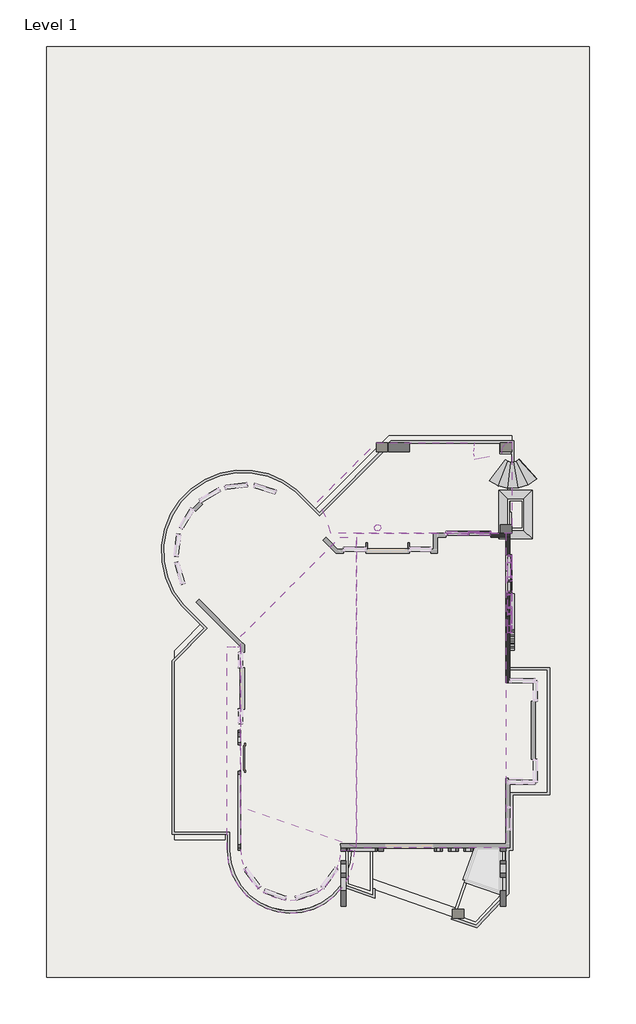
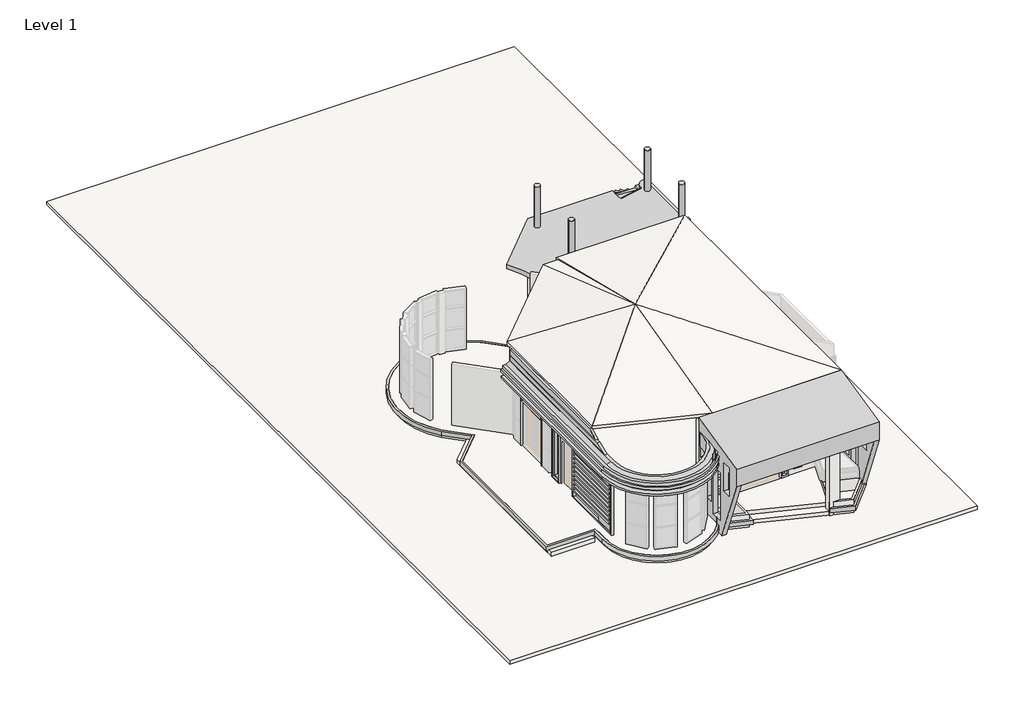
# One storey, part 4 of 4: 47 members, 12 proxies, 9 plates, 9 slabs, 4 walls, 1 stair flight.
"""IFC4 building model written with IfcOpenShell, lengths in millimetres."""

from ifc_helpers import new_model, si_unit, point, frame, frame_2d, origin, origin_with_axes, place, context, project, spatial, polyline, circle_curve, trimmed, segment, composite_curve, outline, extrude, faceted_brep, transform, mapped, element, save
from components import generic_models_1_generic_models_1_bd69fa78, generic_models_10_generic_models_10_8d27cac5, generic_models_11_generic_models_11_a65f2bc0, generic_models_12_generic_models_12_6ada49b7, generic_models_13_generic_models_13_cb0aad71, generic_models_3_generic_models_3_a1db2418, generic_models_4_generic_models_4_7a945247, generic_models_5_generic_models_5_67fbaff2, generic_models_6_generic_models_6_a9f09b6d, generic_models_7_generic_models_7_4984e2a2, generic_models_8_generic_models_8_17cfe582, generic_models_9_generic_models_2_f5175b4a, rectangular_mullion_50_x_150mm_eeb88b28, rectangular_mullion_50_x_150mm_bbc1c4ea, rectangular_mullion_50_x_150mm_3251d295, rectangular_mullion_50_x_150mm_03f9fa20, rectangular_mullion_50_x_150mm_f816ec39, rectangular_mullion_50_x_150mm_80d9c774, rectangular_mullion_50_x_150mm_6ac627af, rectangular_mullion_50_x_150mm_b03f34d7, rectangular_mullion_50_x_150mm_89be94bf, rectangular_mullion_50_x_150mm_c727c09e, rectangular_mullion_50_x_150mm_3d6894b0, rectangular_mullion_50_x_150mm_f98cb22d, rectangular_mullion_50_x_150mm_fdea0e76, rectangular_mullion_50_x_150mm_feba3820, rectangular_mullion_50_x_150mm_bae6ea92, rectangular_mullion_50_x_150mm_3441b6ce, rectangular_mullion_50_x_150mm_f1fdaf0a, rectangular_mullion_50_x_150mm_1e34799e, rectangular_mullion_50_x_150mm_2bcf8449, rectangular_mullion_50_x_150mm_fa7ecc48, rectangular_mullion_50_x_150mm_aa3029b1, rectangular_mullion_50_x_150mm_ba6a34b9, rectangular_mullion_50_x_150mm_f9d87fdc, rectangular_mullion_50_x_150mm_e1e52ecf, rectangular_mullion_50_x_150mm_8d3b0e21, rectangular_mullion_50_x_150mm_21ce460e, rectangular_mullion_50_x_150mm_1504598e, rectangular_mullion_50_x_150mm_ba1f1c32, rectangular_mullion_50_x_150mm_53edf6cf, rectangular_mullion_50_x_150mm_c4a62785, rectangular_mullion_50_x_150mm_ecfa3ac2, rectangular_mullion_50_x_150mm_dfeac2ca, rectangular_mullion_50_x_150mm_e82de0b1, rectangular_mullion_50_x_150mm_13a70143, system_panel_glazed_597167cc, system_panel_glazed_92c4ef80, system_panel_glazed_fcf763ac, system_panel_glazed_2d952c79, system_panel_glazed_96eedeeb, system_panel_glazed_a6878983, system_panel_glazed_1dd5f400, system_panel_glazed_0088ee4b, system_panel_glazed_d0d156c8, stair_flight_50_mm_tread_13_mm_riser_f81ebb1b

model = new_model("IFC4")

# Units and contexts
model_context = context("Model", 3, world=origin())
ifc_project = project(units=[si_unit("LENGTHUNIT", "METRE", prefix="MILLI")], contexts=[model_context])

# Site, building, storey
site = spatial("IfcSite", under=ifc_project)
building = spatial("IfcBuilding", under=site)
storey = spatial("IfcBuildingStorey", under=building, Name="Level 1", Elevation=0.0)

# Proxies
placement = place(None, origin())
generic_models_1_generic_models_1_shape = generic_models_1_generic_models_1_bd69fa78(model_context)
element("IfcBuildingElementProxy", 1, Name="Generic Models 1 : Generic Models 1", ObjectType="Generic Models 1 : Generic Models 1", at=placement, inside=storey, context=model_context, shape_type="MappedRepresentation", body=[
    mapped(generic_models_1_generic_models_1_shape, transform((0.0, -688.2356812, 0.0), x_axis=(1.0, 0.0, 0.0), y_axis=(0.0, 1.0, 0.0), z_axis=(0.0, 0.0, 1.0))),
])
generic_models_10_generic_models_10_shape = generic_models_10_generic_models_10_8d27cac5(model_context)
element("IfcBuildingElementProxy", 2, Name="Generic Models 10 : Generic Models 10", ObjectType="Generic Models 10 : Generic Models 10", at=placement, inside=storey, context=model_context, shape_type="MappedRepresentation", body=[
    mapped(generic_models_10_generic_models_10_shape, transform((0.0, 0.0, 0.0), x_axis=(1.0, 0.0, 0.0), y_axis=(0.0, 1.0, 0.0), z_axis=(0.0, 0.0, 1.0))),
])
generic_models_11_generic_models_11_shape = generic_models_11_generic_models_11_a65f2bc0(model_context)
element("IfcBuildingElementProxy", 3, Name="Generic Models 11 : Generic Models 11", ObjectType="Generic Models 11 : Generic Models 11", at=placement, inside=storey, context=model_context, shape_type="MappedRepresentation", body=[
    mapped(generic_models_11_generic_models_11_shape, transform((0.0, 0.0, 0.0), x_axis=(1.0, 0.0, 0.0), y_axis=(0.0, 1.0, 0.0), z_axis=(0.0, 0.0, 1.0))),
])
generic_models_12_generic_models_12_shape = generic_models_12_generic_models_12_6ada49b7(model_context)
element("IfcBuildingElementProxy", 4, Name="Generic Models 12 : Generic Models 12", ObjectType="Generic Models 12 : Generic Models 12", at=placement, inside=storey, context=model_context, shape_type="MappedRepresentation", body=[
    mapped(generic_models_12_generic_models_12_shape, transform((0.0, 0.0, 0.0), x_axis=(1.0, 0.0, 0.0), y_axis=(0.0, 1.0, 0.0), z_axis=(0.0, 0.0, 1.0))),
])
generic_models_13_generic_models_13_shape = generic_models_13_generic_models_13_cb0aad71(model_context)
element("IfcBuildingElementProxy", 5, Name="Generic Models 13 : Generic Models 13", ObjectType="Generic Models 13 : Generic Models 13", at=placement, inside=storey, context=model_context, shape_type="MappedRepresentation", body=[
    mapped(generic_models_13_generic_models_13_shape, transform((0.0, 0.0, 0.0), x_axis=(1.0, 0.0, 0.0), y_axis=(0.0, 1.0, 0.0), z_axis=(0.0, 0.0, 1.0))),
])
generic_models_3_generic_models_3_shape = generic_models_3_generic_models_3_a1db2418(model_context)
element("IfcBuildingElementProxy", 6, Name="Generic Models 3 : Generic Models 3", ObjectType="Generic Models 3 : Generic Models 3", at=placement, inside=storey, context=model_context, shape_type="MappedRepresentation", body=[
    mapped(generic_models_3_generic_models_3_shape, transform((0.0, 0.0, 0.0), x_axis=(1.0, 0.0, 0.0), y_axis=(0.0, 1.0, 0.0), z_axis=(0.0, 0.0, 1.0))),
])
generic_models_4_generic_models_4_shape = generic_models_4_generic_models_4_7a945247(model_context)
element("IfcBuildingElementProxy", 7, Name="Generic Models 4 : Generic Models 4", ObjectType="Generic Models 4 : Generic Models 4", at=placement, inside=storey, context=model_context, shape_type="MappedRepresentation", body=[
    mapped(generic_models_4_generic_models_4_shape, transform((0.0, 0.0, 0.0), x_axis=(1.0, 0.0, 0.0), y_axis=(0.0, 1.0, 0.0), z_axis=(0.0, 0.0, 1.0))),
])
generic_models_5_generic_models_5_shape = generic_models_5_generic_models_5_67fbaff2(model_context)
element("IfcBuildingElementProxy", 8, Name="Generic Models 5 : Generic Models 5", ObjectType="Generic Models 5 : Generic Models 5", at=placement, inside=storey, context=model_context, shape_type="MappedRepresentation", body=[
    mapped(generic_models_5_generic_models_5_shape, transform((0.0, 0.0, 0.0), x_axis=(1.0, 0.0, 0.0), y_axis=(0.0, 1.0, 0.0), z_axis=(0.0, 0.0, 1.0))),
])
generic_models_6_generic_models_6_shape = generic_models_6_generic_models_6_a9f09b6d(model_context)
element("IfcBuildingElementProxy", 9, Name="Generic Models 6 : Generic Models 6", ObjectType="Generic Models 6 : Generic Models 6", at=placement, inside=storey, context=model_context, shape_type="MappedRepresentation", body=[
    mapped(generic_models_6_generic_models_6_shape, transform((0.0, 0.0, 0.0), x_axis=(1.0, 0.0, 0.0), y_axis=(0.0, 1.0, 0.0), z_axis=(0.0, 0.0, 1.0))),
])
generic_models_7_generic_models_7_shape = generic_models_7_generic_models_7_4984e2a2(model_context)
element("IfcBuildingElementProxy", 10, Name="Generic Models 7 : Generic Models 7", ObjectType="Generic Models 7 : Generic Models 7", at=placement, inside=storey, context=model_context, shape_type="MappedRepresentation", body=[
    mapped(generic_models_7_generic_models_7_shape, transform((0.0, 0.0, 0.0), x_axis=(1.0, 0.0, 0.0), y_axis=(0.0, 1.0, 0.0), z_axis=(0.0, 0.0, 1.0))),
])
generic_models_8_generic_models_8_shape = generic_models_8_generic_models_8_17cfe582(model_context)
element("IfcBuildingElementProxy", 11, Name="Generic Models 8 : Generic Models 8", ObjectType="Generic Models 8 : Generic Models 8", at=placement, inside=storey, context=model_context, shape_type="MappedRepresentation", body=[
    mapped(generic_models_8_generic_models_8_shape, transform((0.0, 0.0, 0.0), x_axis=(1.0, 0.0, 0.0), y_axis=(0.0, 1.0, 0.0), z_axis=(0.0, 0.0, 1.0))),
])
generic_models_9_generic_models_2_shape = generic_models_9_generic_models_2_f5175b4a(model_context)
element("IfcBuildingElementProxy", 12, Name="Generic Models 9 : Generic Models 2", ObjectType="Generic Models 9 : Generic Models 2", at=placement, inside=storey, context=model_context, shape_type="MappedRepresentation", body=[
    mapped(generic_models_9_generic_models_2_shape, transform((0.0, 0.0, 0.0), x_axis=(1.0, 0.0, 0.0), y_axis=(0.0, 1.0, 0.0), z_axis=(0.0, 0.0, 1.0))),
])

# Members
rectangular_mullion_50_x_150mm_shape = rectangular_mullion_50_x_150mm_eeb88b28(model_context)
element("IfcMember", 13, ObjectType="Rectangular Mullion : 50 x 150mm", at=placement, inside=storey, context=model_context, shape_type="MappedRepresentation", body=[
    mapped(rectangular_mullion_50_x_150mm_shape, transform((40294.1830624, 28793.7215248, 0.0), x_axis=(1.0, 0.0, 0.0), y_axis=(0.0, -1.0, 0.0), z_axis=(0.0, 0.0, -1.0))),
])
element("IfcMember", 14, ObjectType="Rectangular Mullion : 50 x 150mm", at=placement, inside=storey, context=model_context, shape_type="MappedRepresentation", body=[
    mapped(rectangular_mullion_50_x_150mm_shape, transform((40294.1830624, 28793.7215248, 1000.0), x_axis=(1.0, 0.0, 0.0), y_axis=(0.0, -1.0, 0.0), z_axis=(0.0, 0.0, -1.0))),
])
element("IfcMember", 15, ObjectType="Rectangular Mullion : 50 x 150mm", at=placement, inside=storey, context=model_context, shape_type="MappedRepresentation", body=[
    mapped(rectangular_mullion_50_x_150mm_shape, transform((40294.1830624, 28793.7215248, 2000.0), x_axis=(1.0, 0.0, 0.0), y_axis=(0.0, -1.0, 0.0), z_axis=(0.0, 0.0, -1.0))),
])
element("IfcMember", 16, ObjectType="Rectangular Mullion : 50 x 150mm", at=placement, inside=storey, context=model_context, shape_type="MappedRepresentation", body=[
    mapped(rectangular_mullion_50_x_150mm_shape, transform((41014.1830624, 25013.2541901, 2000.0), x_axis=(0.0, -1.0, 0.0), y_axis=(-1.0, 0.0, 0.0), z_axis=(0.0, 0.0, -1.0))),
])
element("IfcMember", 17, ObjectType="Rectangular Mullion : 50 x 150mm", at=placement, inside=storey, context=model_context, shape_type="MappedRepresentation", body=[
    mapped(rectangular_mullion_50_x_150mm_shape, transform((41014.1830624, 27983.7215248, 2000.0), x_axis=(0.0, 1.0, 0.0), y_axis=(-1.0, 0.0, 0.0), z_axis=(0.0, 0.0, 1.0))),
])
rectangular_mullion_50_x_150mm_2_shape = rectangular_mullion_50_x_150mm_bbc1c4ea(model_context)
element("IfcMember", 18, ObjectType="Rectangular Mullion : 50 x 150mm", at=placement, inside=storey, context=model_context, shape_type="MappedRepresentation", body=[
    mapped(rectangular_mullion_50_x_150mm_2_shape, transform((39439.3537527, 28793.7215248, 0.0), x_axis=(1.0, 0.0, 0.0), y_axis=(0.0, -1.0, 0.0), z_axis=(0.0, 0.0, -1.0))),
])
element("IfcMember", 19, ObjectType="Rectangular Mullion : 50 x 150mm", at=placement, inside=storey, context=model_context, shape_type="MappedRepresentation", body=[
    mapped(rectangular_mullion_50_x_150mm_2_shape, transform((39439.3537527, 28793.7215248, 1000.0), x_axis=(1.0, 0.0, 0.0), y_axis=(0.0, -1.0, 0.0), z_axis=(0.0, 0.0, -1.0))),
])
element("IfcMember", 20, ObjectType="Rectangular Mullion : 50 x 150mm", at=placement, inside=storey, context=model_context, shape_type="MappedRepresentation", body=[
    mapped(rectangular_mullion_50_x_150mm_2_shape, transform((39439.3537527, 28793.7215248, 2000.0), x_axis=(1.0, 0.0, 0.0), y_axis=(0.0, -1.0, 0.0), z_axis=(0.0, 0.0, -1.0))),
])
rectangular_mullion_50_x_150mm_3_shape = rectangular_mullion_50_x_150mm_3251d295(model_context)
element("IfcMember", 21, ObjectType="Rectangular Mullion : 50 x 150mm", at=placement, inside=storey, context=model_context, shape_type="MappedRepresentation", body=[
    mapped(rectangular_mullion_50_x_150mm_3_shape, transform((39439.3537527, 28793.7215248, 3000.0), x_axis=(1.0, 0.0, 0.0), y_axis=(0.0, -1.0, 0.0), z_axis=(0.0, 0.0, -1.0))),
])
rectangular_mullion_50_x_150mm_4_shape = rectangular_mullion_50_x_150mm_03f9fa20(model_context)
element("IfcMember", 22, ObjectType="Rectangular Mullion : 50 x 150mm", at=placement, inside=storey, context=model_context, shape_type="MappedRepresentation", body=[
    mapped(rectangular_mullion_50_x_150mm_4_shape, transform((40294.1830624, 28793.7215248, 3000.0), x_axis=(1.0, 0.0, 0.0), y_axis=(0.0, -1.0, 0.0), z_axis=(0.0, 0.0, -1.0))),
])
rectangular_mullion_50_x_150mm_5_shape = rectangular_mullion_50_x_150mm_f816ec39(model_context)
element("IfcMember", 23, ObjectType="Rectangular Mullion : 50 x 150mm", at=placement, inside=storey, context=model_context, shape_type="MappedRepresentation", body=[
    mapped(rectangular_mullion_50_x_150mm_5_shape, transform((41014.1830624, 27676.0350867, 2766.2241464), x_axis=(0.0, 0.0, 1.0), y_axis=(-1.0, 0.0, 0.0), z_axis=(0.0, -1.0, 0.0))),
])
rectangular_mullion_50_x_150mm_6_shape = rectangular_mullion_50_x_150mm_80d9c774(model_context)
element("IfcMember", 24, ObjectType="Rectangular Mullion : 50 x 150mm", at=placement, inside=storey, context=model_context, shape_type="MappedRepresentation", body=[
    mapped(rectangular_mullion_50_x_150mm_6_shape, transform((41014.1830624, 25319.4000247, 1360.0), x_axis=(0.0, 0.0, -1.0), y_axis=(-1.0, 0.0, 0.0), z_axis=(0.0, 1.0, 0.0))),
])
rectangular_mullion_50_x_150mm_7_shape = rectangular_mullion_50_x_150mm_6ac627af(model_context)
element("IfcMember", 25, ObjectType="Rectangular Mullion : 50 x 150mm", at=placement, inside=storey, context=model_context, shape_type="MappedRepresentation", body=[
    mapped(rectangular_mullion_50_x_150mm_7_shape, transform((41014.1830624, 27983.7215248, 2766.2241464), x_axis=(0.0, 1.0, 0.0), y_axis=(-1.0, 0.0, 0.0), z_axis=(0.0, 0.0, 1.0))),
])
rectangular_mullion_50_x_150mm_8_shape = rectangular_mullion_50_x_150mm_b03f34d7(model_context)
element("IfcMember", 26, ObjectType="Rectangular Mullion : 50 x 150mm", at=placement, inside=storey, context=model_context, shape_type="MappedRepresentation", body=[
    mapped(rectangular_mullion_50_x_150mm_8_shape, transform((41014.1830624, 27983.7215248, 1000.0), x_axis=(0.0, 1.0, 0.0), y_axis=(-1.0, 0.0, 0.0), z_axis=(0.0, 0.0, 1.0))),
])
rectangular_mullion_50_x_150mm_9_shape = rectangular_mullion_50_x_150mm_89be94bf(model_context)
element("IfcMember", 27, ObjectType="Rectangular Mullion : 50 x 150mm", at=placement, inside=storey, context=model_context, shape_type="MappedRepresentation", body=[
    mapped(rectangular_mullion_50_x_150mm_9_shape, transform((41014.1830624, 26990.3881914, 960.0), x_axis=(0.0, -1.0, 0.0), y_axis=(-1.0, 0.0, 0.0), z_axis=(0.0, 0.0, -1.0))),
])
rectangular_mullion_50_x_150mm_10_shape = rectangular_mullion_50_x_150mm_c727c09e(model_context)
element("IfcMember", 28, ObjectType="Rectangular Mullion : 50 x 150mm", at=placement, inside=storey, context=model_context, shape_type="MappedRepresentation", body=[
    mapped(rectangular_mullion_50_x_150mm_10_shape, transform((41014.1830624, 25997.0548582, 3000.0), x_axis=(0.0, -1.0, 0.0), y_axis=(-1.0, 0.0, 0.0), z_axis=(0.0, 0.0, -1.0))),
])
rectangular_mullion_50_x_150mm_11_shape = rectangular_mullion_50_x_150mm_3d6894b0(model_context)
element("IfcMember", 29, ObjectType="Rectangular Mullion : 50 x 150mm", at=placement, inside=storey, context=model_context, shape_type="MappedRepresentation", body=[
    mapped(rectangular_mullion_50_x_150mm_11_shape, transform((41014.1830624, 25013.2541901, 1360.0), x_axis=(0.0, -1.0, 0.0), y_axis=(-1.0, 0.0, 0.0), z_axis=(0.0, 0.0, -1.0))),
])
rectangular_mullion_50_x_150mm_12_shape = rectangular_mullion_50_x_150mm_f98cb22d(model_context)
element("IfcMember", 30, ObjectType="Rectangular Mullion : 50 x 150mm", at=placement, inside=storey, context=model_context, shape_type="MappedRepresentation", body=[
    mapped(rectangular_mullion_50_x_150mm_12_shape, transform((41014.1830624, 25013.2541901, 3000.0), x_axis=(0.0, -1.0, 0.0), y_axis=(-1.0, 0.0, 0.0), z_axis=(0.0, 0.0, -1.0))),
])
rectangular_mullion_50_x_150mm_13_shape = rectangular_mullion_50_x_150mm_fdea0e76(model_context)
element("IfcMember", 31, ObjectType="Rectangular Mullion : 50 x 150mm", at=placement, inside=storey, context=model_context, shape_type="MappedRepresentation", body=[
    mapped(rectangular_mullion_50_x_150mm_13_shape, transform((41014.1830624, 27015.3881914, 1000.0), x_axis=(0.0, 0.0, 1.0), y_axis=(-1.0, 0.0, 0.0), z_axis=(0.0, -1.0, 0.0))),
])
rectangular_mullion_50_x_150mm_14_shape = rectangular_mullion_50_x_150mm_feba3820(model_context)
element("IfcMember", 32, ObjectType="Rectangular Mullion : 50 x 150mm", at=placement, inside=storey, context=model_context, shape_type="MappedRepresentation", body=[
    mapped(rectangular_mullion_50_x_150mm_14_shape, transform((41014.1830624, 27119.3406583, 2000.0), x_axis=(0.0, 0.0, 1.0), y_axis=(-1.0, 0.0, 0.0), z_axis=(0.0, -1.0, 0.0))),
])
rectangular_mullion_50_x_150mm_15_shape = rectangular_mullion_50_x_150mm_bae6ea92(model_context)
element("IfcMember", 33, ObjectType="Rectangular Mullion : 50 x 150mm", at=placement, inside=storey, context=model_context, shape_type="MappedRepresentation", body=[
    mapped(rectangular_mullion_50_x_150mm_15_shape, transform((41014.1830624, 25063.2541901, 3166.2241464), x_axis=(0.0, 0.0, 1.0), y_axis=(-1.0, 0.0, 0.0), z_axis=(0.0, -1.0, 0.0))),
])
rectangular_mullion_50_x_150mm_16_shape = rectangular_mullion_50_x_150mm_3441b6ce(model_context)
element("IfcMember", 34, ObjectType="Rectangular Mullion : 50 x 150mm", at=placement, inside=storey, context=model_context, shape_type="MappedRepresentation", body=[
    mapped(rectangular_mullion_50_x_150mm_16_shape, transform((41014.1830624, 27933.7215248, 960.0), x_axis=(0.0, 0.0, -1.0), y_axis=(-1.0, 0.0, 0.0), z_axis=(0.0, 1.0, 0.0))),
])
rectangular_mullion_50_x_150mm_17_shape = rectangular_mullion_50_x_150mm_f1fdaf0a(model_context)
element("IfcMember", 35, ObjectType="Rectangular Mullion : 50 x 150mm", at=placement, inside=storey, context=model_context, shape_type="MappedRepresentation", body=[
    mapped(rectangular_mullion_50_x_150mm_17_shape, transform((41014.1830624, 26363.7364292, 960.0), x_axis=(0.0, -0.8090169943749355, 0.5877852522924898), y_axis=(-1.0, 0.0, 0.0), z_axis=(0.0, -0.5877852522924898, -0.8090169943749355))),
])
rectangular_mullion_50_x_150mm_18_shape = rectangular_mullion_50_x_150mm_1e34799e(model_context)
element("IfcMember", 36, ObjectType="Rectangular Mullion : 50 x 150mm", at=placement, inside=storey, context=model_context, shape_type="MappedRepresentation", body=[
    mapped(rectangular_mullion_50_x_150mm_18_shape, transform((41014.1830624, 26392.7981303, 1000.0), x_axis=(0.0, -0.8090169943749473, 0.5877852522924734), y_axis=(-1.0, 0.0, 0.0), z_axis=(0.0, -0.5877852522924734, -0.8090169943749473))),
])
rectangular_mullion_50_x_150mm_19_shape = rectangular_mullion_50_x_150mm_2bcf8449(model_context)
element("IfcMember", 37, ObjectType="Rectangular Mullion : 50 x 150mm", at=placement, inside=storey, context=model_context, shape_type="MappedRepresentation", body=[
    mapped(rectangular_mullion_50_x_150mm_19_shape, transform((41014.1830624, 27119.3406583, 2000.0), x_axis=(0.0, -0.8090169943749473, 0.5877852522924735), y_axis=(-1.0, 0.0, 0.0), z_axis=(0.0, -0.5877852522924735, -0.8090169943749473))),
])
rectangular_mullion_50_x_150mm_20_shape = rectangular_mullion_50_x_150mm_fa7ecc48(model_context)
element("IfcMember", 38, ObjectType="Rectangular Mullion : 50 x 150mm", at=placement, inside=storey, context=model_context, shape_type="MappedRepresentation", body=[
    mapped(rectangular_mullion_50_x_150mm_20_shape, transform((41014.1830624, 26631.6986822, 3166.2241464), x_axis=(0.0, 0.809016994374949, -0.587785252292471), y_axis=(-1.0, 0.0, 0.0), z_axis=(0.0, 0.587785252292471, 0.809016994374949))),
])
rectangular_mullion_50_x_150mm_21_shape = rectangular_mullion_50_x_150mm_aa3029b1(model_context)
element("IfcMember", 39, ObjectType="Rectangular Mullion : 50 x 150mm", at=placement, inside=storey, context=model_context, shape_type="MappedRepresentation", body=[
    mapped(rectangular_mullion_50_x_150mm_21_shape, transform((41014.1830624, 25784.3872426, 2000.0), x_axis=(0.0, 0.8090169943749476, -0.587785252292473), y_axis=(-1.0, 0.0, 0.0), z_axis=(0.0, 0.5877852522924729, 0.8090169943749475))),
])
rectangular_mullion_50_x_150mm_22_shape = rectangular_mullion_50_x_150mm_ba6a34b9(model_context)
element("IfcMember", 40, ObjectType="Rectangular Mullion : 50 x 150mm", at=placement, inside=storey, context=model_context, shape_type="MappedRepresentation", body=[
    mapped(rectangular_mullion_50_x_150mm_22_shape, transform((41014.1830624, 26392.7981303, 1000.0), x_axis=(0.0, 0.0, 1.0), y_axis=(-1.0, 0.0, 0.0), z_axis=(0.0, -1.0, 0.0))),
])
rectangular_mullion_50_x_150mm_23_shape = rectangular_mullion_50_x_150mm_f9d87fdc(model_context)
element("IfcMember", 41, ObjectType="Rectangular Mullion : 50 x 150mm", at=placement, inside=storey, context=model_context, shape_type="MappedRepresentation", body=[
    mapped(rectangular_mullion_50_x_150mm_23_shape, transform((41014.1830624, 25063.2541901, 2000.0), x_axis=(0.0, 0.0, 1.0), y_axis=(-1.0, 0.0, 0.0), z_axis=(0.0, -1.0, 0.0))),
])
rectangular_mullion_50_x_150mm_24_shape = rectangular_mullion_50_x_150mm_e1e52ecf(model_context)
element("IfcMember", 42, ObjectType="Rectangular Mullion : 50 x 150mm", at=placement, inside=storey, context=model_context, shape_type="MappedRepresentation", body=[
    mapped(rectangular_mullion_50_x_150mm_24_shape, transform((41014.1830624, 26022.0548582, 3166.2241464), x_axis=(0.0, 0.0, 1.0), y_axis=(-1.0, 0.0, 0.0), z_axis=(0.0, -1.0, 0.0))),
])
rectangular_mullion_50_x_150mm_25_shape = rectangular_mullion_50_x_150mm_8d3b0e21(model_context)
element("IfcMember", 43, ObjectType="Rectangular Mullion : 50 x 150mm", at=placement, inside=storey, context=model_context, shape_type="MappedRepresentation", body=[
    mapped(rectangular_mullion_50_x_150mm_25_shape, transform((41014.1830624, 26965.3881914, 960.0), x_axis=(0.0, 0.0, -1.0), y_axis=(-1.0, 0.0, 0.0), z_axis=(0.0, 1.0, 0.0))),
])
rectangular_mullion_50_x_150mm_26_shape = rectangular_mullion_50_x_150mm_21ce460e(model_context)
element("IfcMember", 44, ObjectType="Rectangular Mullion : 50 x 150mm", at=placement, inside=storey, context=model_context, shape_type="MappedRepresentation", body=[
    mapped(rectangular_mullion_50_x_150mm_26_shape, transform((41014.1830624, 26990.3881914, 1822.5121558), x_axis=(0.0, -0.8090169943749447, 0.587785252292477), y_axis=(-1.0, 0.0, 0.0), z_axis=(0.0, -0.5877852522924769, -0.8090169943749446))),
])
rectangular_mullion_50_x_150mm_27_shape = rectangular_mullion_50_x_150mm_1504598e(model_context)
element("IfcMember", 45, ObjectType="Rectangular Mullion : 50 x 150mm", at=placement, inside=storey, context=model_context, shape_type="MappedRepresentation", body=[
    mapped(rectangular_mullion_50_x_150mm_27_shape, transform((41014.1830624, 25997.0548582, 2292.7118612), x_axis=(0.0, 0.8090169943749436, -0.5877852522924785), y_axis=(-1.0, 0.0, 0.0), z_axis=(0.0, 0.5877852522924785, 0.8090169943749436))),
])
rectangular_mullion_50_x_150mm_28_shape = rectangular_mullion_50_x_150mm_ba1f1c32(model_context)
element("IfcMember", 46, ObjectType="Rectangular Mullion : 50 x 150mm", at=placement, inside=storey, context=model_context, shape_type="MappedRepresentation", body=[
    mapped(rectangular_mullion_50_x_150mm_28_shape, transform((41014.1830624, 26510.9297706, 3000.0), x_axis=(0.0, 0.8090169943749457, -0.5877852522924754), y_axis=(-1.0, 0.0, 0.0), z_axis=(0.0, 0.5877852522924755, 0.8090169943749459))),
])
rectangular_mullion_50_x_150mm_29_shape = rectangular_mullion_50_x_150mm_53edf6cf(model_context)
element("IfcMember", 47, ObjectType="Rectangular Mullion : 50 x 150mm", at=placement, inside=storey, context=model_context, shape_type="MappedRepresentation", body=[
    mapped(rectangular_mullion_50_x_150mm_29_shape, transform((41014.1830624, 26022.0548582, 3000.0), x_axis=(0.0, 0.0, 1.0), y_axis=(-1.0, 0.0, 0.0), z_axis=(0.0, -1.0, 0.0))),
])
rectangular_mullion_50_x_150mm_30_shape = rectangular_mullion_50_x_150mm_c4a62785(model_context)
element("IfcMember", 48, ObjectType="Rectangular Mullion : 50 x 150mm", at=placement, inside=storey, context=model_context, shape_type="MappedRepresentation", body=[
    mapped(rectangular_mullion_50_x_150mm_30_shape, transform((41014.1830624, 25063.2541901, 3000.0), x_axis=(0.0, 0.0, 1.0), y_axis=(-1.0, 0.0, 0.0), z_axis=(0.0, -1.0, 0.0))),
])
rectangular_mullion_50_x_150mm_31_shape = rectangular_mullion_50_x_150mm_ecfa3ac2(model_context)
element("IfcMember", 49, ObjectType="Rectangular Mullion : 50 x 150mm", at=placement, inside=storey, context=model_context, shape_type="MappedRepresentation", body=[
    mapped(rectangular_mullion_50_x_150mm_31_shape, transform((41014.1830624, 25997.0548582, 2292.7118612), x_axis=(0.0, -1.0, 0.0), y_axis=(-1.0, 0.0, 0.0), z_axis=(0.0, 0.0, -1.0))),
])
rectangular_mullion_50_x_150mm_32_shape = rectangular_mullion_50_x_150mm_dfeac2ca(model_context)
element("IfcMember", 50, ObjectType="Rectangular Mullion : 50 x 150mm", at=placement, inside=storey, context=model_context, shape_type="MappedRepresentation", body=[
    mapped(rectangular_mullion_50_x_150mm_32_shape, transform((41014.1830624, 26990.3881914, 1000.0), x_axis=(0.0, -1.0, 0.0), y_axis=(-1.0, 0.0, 0.0), z_axis=(0.0, 0.0, -1.0))),
])
rectangular_mullion_50_x_150mm_33_shape = rectangular_mullion_50_x_150mm_e82de0b1(model_context)
element("IfcMember", 51, ObjectType="Rectangular Mullion : 50 x 150mm", at=placement, inside=storey, context=model_context, shape_type="MappedRepresentation", body=[
    mapped(rectangular_mullion_50_x_150mm_33_shape, transform((40244.1830624, 28793.7215248, 3200.0), x_axis=(0.0, 0.0, 1.0), y_axis=(0.0, -1.0, 0.0), z_axis=(1.0, 0.0, 0.0))),
])
element("IfcMember", 52, ObjectType="Rectangular Mullion : 50 x 150mm", at=placement, inside=storey, context=model_context, shape_type="MappedRepresentation", body=[
    mapped(rectangular_mullion_50_x_150mm_33_shape, transform((39414.3537527, 28793.7215248, 3200.0), x_axis=(0.0, 0.0, 1.0), y_axis=(0.0, -1.0, 0.0), z_axis=(1.0, 0.0, 0.0))),
])
element("IfcMember", 53, ObjectType="Rectangular Mullion : 50 x 150mm", at=placement, inside=storey, context=model_context, shape_type="MappedRepresentation", body=[
    mapped(rectangular_mullion_50_x_150mm_33_shape, transform((39464.3537527, 28793.7215248, 0.0), x_axis=(0.0, 0.0, -1.0), y_axis=(0.0, -1.0, 0.0), z_axis=(-1.0, 0.0, 0.0))),
])
rectangular_mullion_50_x_150mm_34_shape = rectangular_mullion_50_x_150mm_13a70143(model_context)
element("IfcMember", 54, ObjectType="Rectangular Mullion : 50 x 150mm", at=placement, inside=storey, context=model_context, shape_type="MappedRepresentation", body=[
    mapped(rectangular_mullion_50_x_150mm_34_shape, transform((39414.3537527, 28793.7215248, 1000.0), x_axis=(0.0, 0.0, 1.0), y_axis=(0.0, -1.0, 0.0), z_axis=(1.0, 0.0, 0.0))),
])
element("IfcMember", 55, ObjectType="Rectangular Mullion : 50 x 150mm", at=placement, inside=storey, context=model_context, shape_type="MappedRepresentation", body=[
    mapped(rectangular_mullion_50_x_150mm_34_shape, transform((40244.1830624, 28793.7215248, 1000.0), x_axis=(0.0, 0.0, 1.0), y_axis=(0.0, -1.0, 0.0), z_axis=(1.0, 0.0, 0.0))),
])
element("IfcMember", 56, ObjectType="Rectangular Mullion : 50 x 150mm", at=placement, inside=storey, context=model_context, shape_type="MappedRepresentation", body=[
    mapped(rectangular_mullion_50_x_150mm_34_shape, transform((39414.3537527, 28793.7215248, 2000.0), x_axis=(0.0, 0.0, 1.0), y_axis=(0.0, -1.0, 0.0), z_axis=(1.0, 0.0, 0.0))),
])
element("IfcMember", 57, ObjectType="Rectangular Mullion : 50 x 150mm", at=placement, inside=storey, context=model_context, shape_type="MappedRepresentation", body=[
    mapped(rectangular_mullion_50_x_150mm_34_shape, transform((40244.1830624, 28793.7215248, 2000.0), x_axis=(0.0, 0.0, 1.0), y_axis=(0.0, -1.0, 0.0), z_axis=(1.0, 0.0, 0.0))),
])
element("IfcMember", 58, ObjectType="Rectangular Mullion : 50 x 150mm", at=placement, inside=storey, context=model_context, shape_type="MappedRepresentation", body=[
    mapped(rectangular_mullion_50_x_150mm_34_shape, transform((39414.3537527, 28793.7215248, 3000.0), x_axis=(0.0, 0.0, 1.0), y_axis=(0.0, -1.0, 0.0), z_axis=(1.0, 0.0, 0.0))),
])
element("IfcMember", 59, ObjectType="Rectangular Mullion : 50 x 150mm", at=placement, inside=storey, context=model_context, shape_type="MappedRepresentation", body=[
    mapped(rectangular_mullion_50_x_150mm_34_shape, transform((40244.1830624, 28793.7215248, 3000.0), x_axis=(0.0, 0.0, 1.0), y_axis=(0.0, -1.0, 0.0), z_axis=(1.0, 0.0, 0.0))),
])

# Plates
system_panel_glazed_shape = system_panel_glazed_597167cc(model_context)
element("IfcPlate", 60, ObjectType="System Panel : Glazed", at=placement, inside=storey, context=model_context, shape_type="MappedRepresentation", body=[
    mapped(system_panel_glazed_shape, transform((41014.1830624, 27566.5145726, 2025.0), x_axis=(0.0, -1.0, 0.0), y_axis=(1.0, 0.0, 0.0), z_axis=(0.0, 0.0, 1.0))),
])
system_panel_glazed_2_shape = system_panel_glazed_92c4ef80(model_context)
element("IfcPlate", 61, ObjectType="System Panel : Glazed", at=placement, inside=storey, context=model_context, shape_type="MappedRepresentation", body=[
    mapped(system_panel_glazed_2_shape, transform((41014.1830624, 25383.8372353, 1410.0), x_axis=(0.0, -1.0, 0.0), y_axis=(1.0, 0.0, 0.0), z_axis=(0.0, 0.0, 1.0))),
])
system_panel_glazed_3_shape = system_panel_glazed_fcf763ac(model_context)
element("IfcPlate", 62, ObjectType="System Panel : Glazed", at=placement, inside=storey, context=model_context, shape_type="MappedRepresentation", body=[
    mapped(system_panel_glazed_3_shape, transform((41014.1830624, 27474.5548581, 1025.0), x_axis=(0.0, -1.0, 0.0), y_axis=(1.0, 0.0, 0.0), z_axis=(0.0, 0.0, 1.0))),
])
system_panel_glazed_4_shape = system_panel_glazed_2d952c79(model_context)
element("IfcPlate", 63, ObjectType="System Panel : Glazed", at=placement, inside=storey, context=model_context, shape_type="MappedRepresentation", body=[
    mapped(system_panel_glazed_4_shape, transform((41014.1830624, 26719.0766419, 1025.0), x_axis=(0.0, -1.0, 0.0), y_axis=(1.0, 0.0, 0.0), z_axis=(0.0, 0.0, 1.0))),
])
system_panel_glazed_5_shape = system_panel_glazed_96eedeeb(model_context)
element("IfcPlate", 64, ObjectType="System Panel : Glazed", at=placement, inside=storey, context=model_context, shape_type="MappedRepresentation", body=[
    mapped(system_panel_glazed_5_shape, transform((41014.1830624, 26226.5088334, 2412.18649), x_axis=(0.0, -1.0, 0.0), y_axis=(1.0, 0.0, 0.0), z_axis=(0.0, 0.0, 1.0))),
])
system_panel_glazed_6_shape = system_panel_glazed_a6878983(model_context)
element("IfcPlate", 65, ObjectType="System Panel : Glazed", at=placement, inside=storey, context=model_context, shape_type="MappedRepresentation", body=[
    mapped(system_panel_glazed_6_shape, transform((41014.1830624, 25517.6545242, 2025.0), x_axis=(0.0, -1.0, 0.0), y_axis=(1.0, 0.0, 0.0), z_axis=(0.0, 0.0, 1.0))),
])
system_panel_glazed_7_shape = system_panel_glazed_1dd5f400(model_context)
element("IfcPlate", 66, ObjectType="System Panel : Glazed", at=placement, inside=storey, context=model_context, shape_type="MappedRepresentation", body=[
    mapped(system_panel_glazed_7_shape, transform((41014.1830624, 26277.8115076, 3025.0), x_axis=(0.0, -1.0, 0.0), y_axis=(1.0, 0.0, 0.0), z_axis=(0.0, 0.0, 1.0))),
])
system_panel_glazed_8_shape = system_panel_glazed_0088ee4b(model_context)
element("IfcPlate", 67, ObjectType="System Panel : Glazed", at=placement, inside=storey, context=model_context, shape_type="MappedRepresentation", body=[
    mapped(system_panel_glazed_8_shape, transform((41014.1830624, 25517.6545242, 3025.0), x_axis=(0.0, -1.0, 0.0), y_axis=(1.0, 0.0, 0.0), z_axis=(0.0, 0.0, 1.0))),
])
system_panel_glazed_9_shape = system_panel_glazed_d0d156c8(model_context)
element("IfcPlate", 68, ObjectType="System Panel : Glazed", at=placement, inside=storey, context=model_context, shape_type="MappedRepresentation", body=[
    mapped(system_panel_glazed_9_shape, transform((39854.2684075, 28793.7215248, 3025.0), x_axis=(1.0, 0.0, 0.0), y_axis=(0.0, 1.0, 0.0), z_axis=(0.0, 0.0, 1.0))),
])

# Slabs
element("IfcSlab", 69, ObjectType="Generic 150mm", at=placement, inside=storey, context=model_context, shape_type="Brep", body=[
    faceted_brep([(35206.9541496, 28793.7215248, 4290.0), (35206.9541496, 28793.7215248, 4440.0), (40864.1830624, 28793.7215248, 4440.0), (40864.1830624, 28793.7215248, 4290.0), (40864.1830624, 16916.0716817, 4440.0), (40864.1830624, 16916.0716817, 4290.0), (35206.9541496, 16916.0716817, 4440.0), (35206.9541496, 16916.0716817, 4290.0), (35206.9541496, 22779.8966032, 5940.0), (35206.9541496, 22779.8966032, 5790.0)], [[[0, 1, 2, 3]], [[3, 2, 4, 5]], [[5, 4, 6, 7]], [[4, 2, 8]], [[5, 9, 3]], [[7, 6, 8, 1, 0, 9]], [[2, 1, 8]], [[3, 9, 0]], [[4, 8, 6]], [[5, 7, 9]]]),
])
element("IfcSlab", 70, ObjectType="Generic 150mm", at=placement, inside=storey, context=model_context, shape_type="SweptSolid", body=[
    extrude(outline(polyline([(44014.1830624, 47209.8803751), (44014.1830624, 12002.2478238), (23469.0466207, 12002.2478238), (23469.0466207, 47209.8803751), (44014.1830624, 47209.8803751)])), frame((0.0, 0.0, -150.0), z_axis=(0.0, 0.0, 1.0), x_axis=(1.0, 0.0, 0.0)), (0.0, 0.0, 1.0), 150.0),
])
element("IfcSlab", 71, ObjectType="Generic 150mm", at=placement, inside=storey, context=model_context, shape_type="Brep", body=[
    faceted_brep([(30821.2049406, 24897.0390758, 4290.5793318), (30821.2049406, 24897.0390758, 4440.5793318), (34567.8873896, 28643.7215248, 4440.5793318), (34567.8873896, 28643.7215248, 4290.5793318), (35206.9541496, 28643.7215248, 4440.5793318), (35206.9541496, 28643.7215248, 4290.5793318), (35206.9541496, 22779.8966032, 5940.5793318), (35206.9541496, 16916.0716817, 4440.5793318), (35206.9541496, 16916.0716817, 4290.5793318), (35206.9541496, 22779.8966032, 5790.5793318), (30821.2049406, 18441.7990576, 4440.5793318), (30821.2049406, 18441.7990576, 4290.5793318)], [[[0, 1, 2, 3]], [[3, 2, 4, 5]], [[5, 4, 6, 7, 8, 9]], [[8, 7, 10, 11]], [[11, 10, 1, 0]], [[10, 7, 6]], [[11, 9, 8]], [[2, 1, 6]], [[10, 6, 1]], [[4, 2, 6]], [[3, 9, 0]], [[11, 0, 9]], [[5, 9, 3]]]),
])
element("IfcSlab", 72, ObjectType="Generic 150mm 2", at=placement, inside=storey, context=model_context, shape_type="SweptSolid", body=[
    extrude(outline(composite_curve([segment(polyline([(33800.803748, 29437.9531891), (36547.5665685, 32193.7215248), (38014.1830624, 32193.7215248), (40614.1830624, 32193.7215248), (40614.1830624, 31793.7215248), (41064.1830624, 31793.7215248), (41064.1830624, 30793.7215248), (40914.1830624, 30793.7215248), (40914.1830624, 29593.7215248), (41064.1830624, 29593.7215248), (41064.1830624, 28743.7215248), (41014.1830624, 28743.7215248), (41014.1830624, 23622.4424795), (42414.1830624, 23622.4424795), (42414.1830624, 19012.4424795), (41014.1830624, 19012.4424795), (41014.1830624, 16916.0716817), (39743.3233318, 16916.0716817), (38944.7110572, 14636.6519928), (35808.8278827, 15735.3328576), (35808.8278827, 16916.0716817), (35008.8302196, 16916.0716817), (35008.8302196, 16815.3954932)]), True, "CONTINUOUS"), segment(trimmed(circle_curve(frame_2d((32715.0177061, 16819.2731229)), 2293.815791), [point((35008.8302196, 16815.3954932))], [point((30421.2049406, 16815.5475612))], False, "CARTESIAN"), True, "CONTINUOUS"), segment(polyline([(30421.2049406, 16815.5475612), (30421.2049406, 17116.0716817), (30421.2049406, 17519.5025719), (28314.1991743, 17519.5025719), (28314.1991743, 23939.3866664), (29572.8614755, 25202.1756082), (28653.8459592, 26121.1911245)]), True, "CONTINUOUS"), segment(trimmed(circle_curve(frame_2d((30914.1830624, 28093.7215248)), 3000.0), [point((28653.8459592, 26121.1911245))], [point((32871.583612, 30367.1733251))], False, "CARTESIAN"), True, "CONTINUOUS"), segment(polyline([(32871.583612, 30367.1733251), (33800.803748, 29437.9531891)]), True, "CONTINUOUS")], self_intersect=False)), origin_with_axes(), (0.0, 0.0, 1.0), 360.0),
])
element("IfcSlab", 73, ObjectType="Generic 150mm 3", at=placement, inside=storey, context=model_context, shape_type="SweptSolid", body=[
    extrude(outline(polyline([(39159.2967167, 14190.6105208), (35808.8278827, 15364.473127), (35808.8278827, 15735.3328576), (38944.7110572, 14636.6519928), (39159.2967167, 14190.6105208)])), origin_with_axes(), (0.0, 0.0, 1.0), 180.0),
    extrude(outline(polyline([(30221.2019151, 17519.5025719), (30221.2019151, 17219.5025719), (28314.9142751, 17219.5025719), (28314.9142751, 17519.5025719), (30221.2019151, 17519.5025719)])), origin_with_axes(), (0.0, 0.0, 1.0), 180.0),
    extrude(outline(polyline([(28314.1991743, 24364.3467987), (29639.0678324, 25693.5591609), (29851.5172379, 25481.7449691), (28314.1991743, 23939.3866664), (28314.1991743, 24364.3467987)])), origin_with_axes(), (0.0, 0.0, 1.0), 180.0),
    extrude(outline(polyline([(36423.0147907, 32493.7215248), (41081.8405612, 32493.7215248), (41081.8405612, 32193.7215248), (36547.5665685, 32193.7215248), (33524.5518968, 29160.7956206), (33312.4195783, 29372.9279391), (36423.0147907, 32493.7215248)])), origin_with_axes(), (0.0, 0.0, 1.0), 180.0),
])
element("IfcSlab", 74, ObjectType="Generic 150mm 4", at=placement, inside=storey, context=model_context, shape_type="SweptSolid", body=[
    extrude(outline(polyline([(41544.1830624, 30114.1498424), (41544.1830624, 28914.1498424), (40914.1830624, 28914.1498424), (40914.1830624, 30114.1498424), (41544.1830624, 30114.1498424)]), holes=[polyline([(41464.1830624, 30014.1498424), (41014.1830624, 30014.1498424), (41014.1830624, 29014.1498424), (41464.1830624, 29014.1498424), (41464.1830624, 30014.1498424)])]), origin_with_axes(), (0.0, 0.0, 1.0), 600.0),
])
element("IfcSlab", 75, ObjectType="Generic 150mm 5", at=placement, inside=storey, context=model_context, shape_type="SweptSolid", body=[
    extrude(outline(polyline([(36381.8405612, 32220.4775525), (36381.8405612, 31893.7215248), (35952.3355956, 31893.7215248), (35952.3355956, 32220.4775525), (36381.8405612, 32220.4775525)])), origin_with_axes(), (0.0, 0.0, 1.0), 3800.0),
    extrude(outline(polyline([(41081.8405612, 32220.4775525), (41081.8405612, 31893.7215248), (40652.3355956, 31893.7215248), (40652.3355956, 32220.4775525), (41081.8405612, 32220.4775525)])), origin_with_axes(), (0.0, 0.0, 1.0), 3800.0),
    extrude(outline(polyline([(39260.1431804, 14574.0060344), (39260.1431804, 14247.2500067), (38830.6382148, 14247.2500067), (38830.6382148, 14574.0060344), (39260.1431804, 14574.0060344)])), origin_with_axes(), (0.0, 0.0, 1.0), 3800.0),
])
element("IfcSlab", 76, ObjectType="Generic 150mm 6", at=placement, inside=storey, context=model_context, shape_type="SweptSolid", body=[
    extrude(outline(polyline([(35808.8278827, 16916.0716817), (35808.8278827, 15735.3328576), (35808.8278827, 15135.3328576), (34805.6536999, 15484.3200524), (34805.6536999, 16916.0716817), (35808.8278827, 16916.0716817)]), holes=[polyline([(35708.8278827, 16816.0716817), (34905.6536999, 16816.0716817), (34905.6536999, 15555.4101095), (35708.8278827, 15275.9995049), (35708.8278827, 16816.0716817)])]), frame((0.0, 0.0, -100.0), z_axis=(0.0, 0.0, 1.0), x_axis=(1.0, 0.0, 0.0)), (0.0, 0.0, 1.0), 700.0),
])
element("IfcSlab", 77, ObjectType="Generic 150mm 7", at=placement, inside=storey, context=model_context, shape_type="SweptSolid", body=[
    extrude(outline(polyline([(40811.9841163, 16916.0716817), (40811.9841163, 15144.5313399), (39725.5485437, 13992.2198244), (38828.9831509, 14306.3384271), (39743.3233318, 16916.0716817), (40811.9841163, 16916.0716817)]), holes=[polyline([(39403.1791033, 15642.7897419), (38956.4235715, 14367.6486155), (39697.3329199, 14108.0653089), (40711.9841163, 15184.2398077), (39403.1791033, 15642.7897419)]), polyline([(40711.9841163, 16816.0716817), (39814.2474833, 16816.0716817), (39456.799762, 15795.8352045), (40711.9841163, 15356.0716817), (40711.9841163, 16816.0716817)])]), frame((0.0, 0.0, -100.0), z_axis=(0.0, 0.0, 1.0), x_axis=(1.0, 0.0, 0.0)), (0.0, 0.0, 1.0), 700.0),
])

# Stair flight
stair_flight_50_mm_tread_13_mm_riser_shape = stair_flight_50_mm_tread_13_mm_riser_f81ebb1b(model_context)
element("IfcStairFlight", 78, ObjectType="50 mm Tread 13 mm Riser", at=placement, inside=storey, context=model_context, shape_type="MappedRepresentation", body=[
    mapped(stair_flight_50_mm_tread_13_mm_riser_shape, transform((0.0, 0.0, 0.0), x_axis=(1.0, 0.0, 0.0), y_axis=(0.0, 1.0, 0.0), z_axis=(0.0, 0.0, 1.0))),
])

# Walls
element("IfcWall", 79, ObjectType="Generic -150mm 2", at=placement, inside=storey, context=model_context, shape_type="Brep", body=[
    faceted_brep([(40864.1830624, 28643.7215248, 0.0), (40864.1830624, 27383.7215248, 0.0), (40864.1830624, 27383.7215248, 960.0), (40864.1830624, 27983.7215248, 960.0), (40864.1830624, 27983.7215248, 2766.2241464), (40864.1830624, 27676.0350867, 2766.2241464), (40864.1830624, 27383.7215248, 2363.8890447), (40864.1830624, 27383.7215248, 4290.0), (40864.1830624, 28643.7215248, 4290.0), (41014.1830624, 28643.7215248, 0.0), (41014.1830624, 28643.7215248, 4209.963259), (41014.1830624, 27383.7215248, 4209.963259), (41014.1830624, 27383.7215248, 2363.8890447), (41014.1830624, 27676.0350867, 2766.2241464), (41014.1830624, 27983.7215248, 2766.2241464), (41014.1830624, 27983.7215248, 960.0), (41014.1830624, 27383.7215248, 960.0), (41014.1830624, 27383.7215248, 0.0)], [[[0, 1, 2, 3, 4, 5, 6, 7, 8]], [[9, 10, 11, 12, 13, 14, 15, 16, 17]], [[0, 8, 10, 9]], [[1, 0, 9, 17]], [[2, 1, 17, 16]], [[7, 6, 12, 11]], [[3, 2, 16, 15]], [[4, 3, 15, 14]], [[5, 4, 14, 13]], [[6, 5, 13, 12]], [[8, 7, 11, 10]]]),
    faceted_brep([(40864.1830624, 25003.7215248, 3160.0), (40864.1830624, 25003.7215248, 4290.0), (40864.1830624, 25643.7215248, 4290.0), (40864.1830624, 25643.7215248, 3166.2241464), (40864.1830624, 25643.7215248, 3160.0), (41014.1830624, 25003.7215248, 3160.0), (41014.1830624, 25643.7215248, 3160.0), (41014.1830624, 25643.7215248, 3166.2241464), (41014.1830624, 25643.7215248, 4209.963259), (41014.1830624, 25003.7215248, 4209.963259)], [[[0, 1, 2, 3, 4]], [[5, 6, 7, 8, 9]], [[1, 0, 5, 9]], [[0, 4, 6, 5]], [[2, 8, 7, 6, 4, 3]], [[2, 1, 9, 8]]]),
    faceted_brep([(40864.1830624, 25319.4000247, 1360.0), (40864.1830624, 25643.7215248, 1806.3902491), (40864.1830624, 25643.7215248, 0.0), (40864.1830624, 25003.7215248, 0.0), (40864.1830624, 25003.7215248, 1360.0), (41014.1830624, 25319.4000247, 1360.0), (41014.1830624, 25003.7215248, 1360.0), (41014.1830624, 25003.7215248, 0.0), (41014.1830624, 25643.7215248, 0.0), (41014.1830624, 25643.7215248, 1806.3902491)], [[[0, 1, 2, 3, 4]], [[5, 6, 7, 8, 9]], [[2, 1, 9, 8]], [[3, 2, 8, 7]], [[4, 3, 7, 6]], [[0, 4, 6, 5]], [[1, 0, 5, 9]]]),
])
element("IfcWall", 80, ObjectType="Generic -150mm 2", at=placement, inside=storey, context=model_context, shape_type="Brep", body=[
    faceted_brep([(40294.1830624, 28643.7215248, 0.0), (40864.1830624, 28643.7215248, 0.0), (41014.1830624, 28643.7215248, 0.0), (41014.1830624, 28643.7215248, 4209.963259), (41014.1830624, 28643.7215248, 4290.0), (40294.1830624, 28643.7215248, 4290.0), (40294.1830624, 28643.7215248, 3119.685322), (40294.1830624, 28793.7215248, 0.0), (40294.1830624, 28793.7215248, 3119.685322), (40294.1830624, 28793.7215248, 4290.0), (41014.1830624, 28793.7215248, 4290.0), (41014.1830624, 28793.7215248, 0.0)], [[[0, 1, 2, 3, 4, 5, 6]], [[7, 8, 9, 10, 11]], [[2, 1, 0, 7, 11]], [[5, 4, 10, 9]], [[0, 6, 5, 9, 8, 7]], [[4, 3, 2, 11, 10]]]),
])
element("IfcWall", 81, ObjectType="Generic -150mm 2", at=placement, inside=storey, context=model_context, shape_type="Brep", body=[
    faceted_brep([(40864.1830624, 27383.7215248, 4290.0), (40864.1830624, 27383.7215248, 2363.8890447), (40864.1830624, 26363.7364292, 960.0), (40864.1830624, 27383.7215248, 960.0), (40864.1830624, 27383.7215248, 0.0), (40864.1830624, 25643.7215248, 0.0), (40864.1830624, 25643.7215248, 1806.3902491), (40864.1830624, 26510.9297706, 3000.0), (40864.1830624, 26631.6986822, 3166.2241464), (40864.1830624, 25643.7215248, 3166.2241464), (40864.1830624, 25643.7215248, 4290.0), (41014.1830624, 27383.7215248, 2363.8890447), (41014.1830624, 27383.7215248, 4209.963259), (41014.1830624, 25643.7215248, 4209.963259), (41014.1830624, 25643.7215248, 3166.2241464), (41014.1830624, 26631.6986822, 3166.2241464), (41014.1830624, 26510.9297706, 3000.0), (41014.1830624, 25643.7215248, 1806.3902491), (41014.1830624, 25643.7215248, 0.0), (41014.1830624, 27383.7215248, 0.0), (41014.1830624, 27383.7215248, 960.0), (41014.1830624, 26363.7364292, 960.0)], [[[0, 1, 2, 3, 4, 5, 6, 7, 8, 9, 10]], [[11, 12, 13, 14, 15, 16, 17, 18, 19, 20, 21]], [[5, 4, 19, 18]], [[6, 5, 18, 17]], [[0, 12, 11, 1]], [[2, 1, 11, 21]], [[3, 2, 21, 20]], [[4, 3, 20, 19]], [[7, 6, 17, 16]], [[8, 7, 16, 15]], [[9, 8, 15, 14]], [[10, 9, 14, 13]], [[0, 10, 13, 12]]]),
])
element("IfcWall", 82, ObjectType="Generic -150mm 2", at=placement, inside=storey, context=model_context, shape_type="Brep", body=[
    faceted_brep([(40864.1830624, 25003.7215248, 4290.0), (40864.1830624, 25003.7215248, 3160.0), (40864.1830624, 25003.7215248, 1360.0), (40864.1830624, 25003.7215248, 0.0), (40864.1830624, 23147.4424795, 0.0), (40864.1830624, 23147.4424795, 4290.0), (41014.1830624, 25003.7215248, 0.0), (41014.1830624, 25003.7215248, 1360.0), (41014.1830624, 25003.7215248, 3160.0), (41014.1830624, 25003.7215248, 4209.963259), (41014.1830624, 23297.4424795, 4209.963259), (41014.1830624, 23147.4424795, 4209.963259), (41014.1830624, 23147.4424795, 3200.0), (41014.1830624, 23147.4424795, 0.0)], [[[0, 1, 2, 3, 4, 5]], [[6, 7, 8, 9, 10, 11, 12, 13]], [[4, 3, 6, 13]], [[0, 9, 8, 7, 6, 3, 2, 1]], [[5, 4, 13, 12, 11]], [[0, 5, 11, 10, 9]]]),
])

save(model, "model.ifc")
